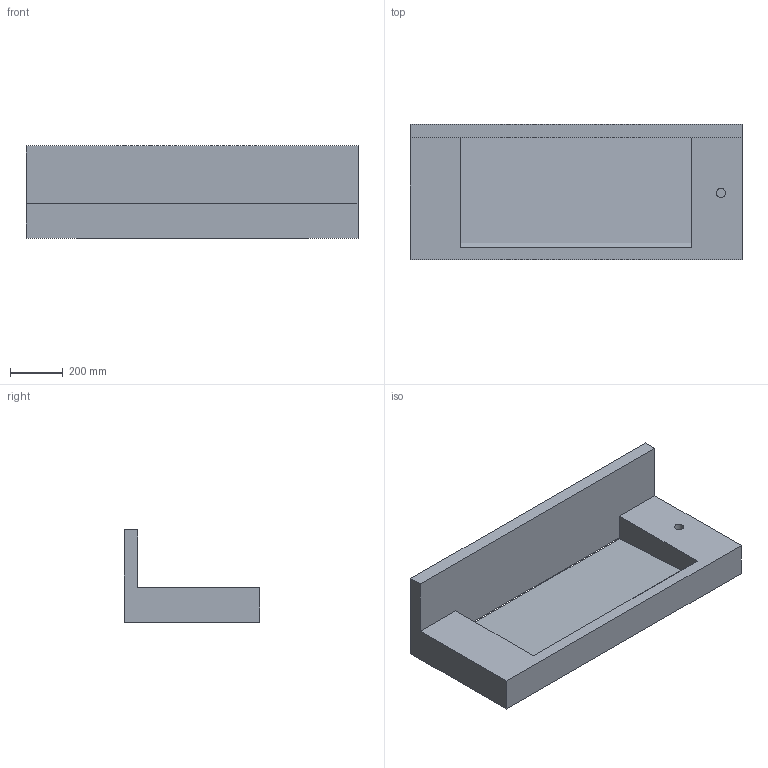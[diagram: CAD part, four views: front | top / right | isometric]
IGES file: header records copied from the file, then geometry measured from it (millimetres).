
Start section: Data from Parasolid IGES Translator 19.0.9, Copyright(c) 2006 Siemens PL M Software. All Rights Reserved.
Global section: file name: noorth-top-H 13 D 51,3 W 126_4791.igs; native system: By Siemens PLM Incorporated; preprocessor: XPlus GENERIC/IGES 19.0.9; author: Noname; organization: Noname; date: 20200601.163440; units: metre
Bounding box: 1260 x 513 x 350 mm (x, y, z)
Volume: 57653314 mm3; surface area: 2715833.5 mm2
Topology: 2 solids, 2 shells, 23 faces, 58 edges, 39 vertices
Faces by surface type: plane 22, cylinder 1
Full cylindrical faces by diameter (mm): 34.9 x1
